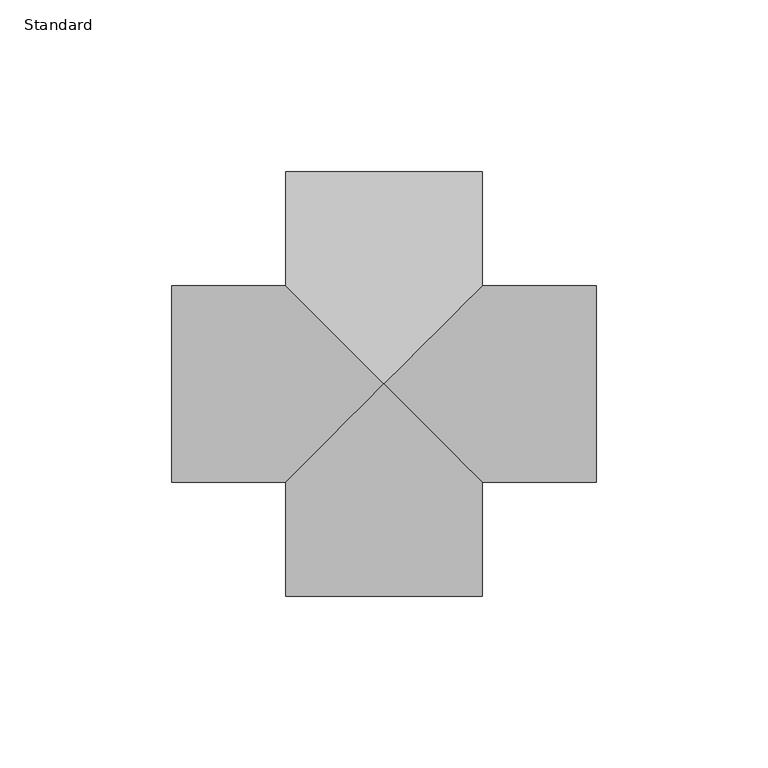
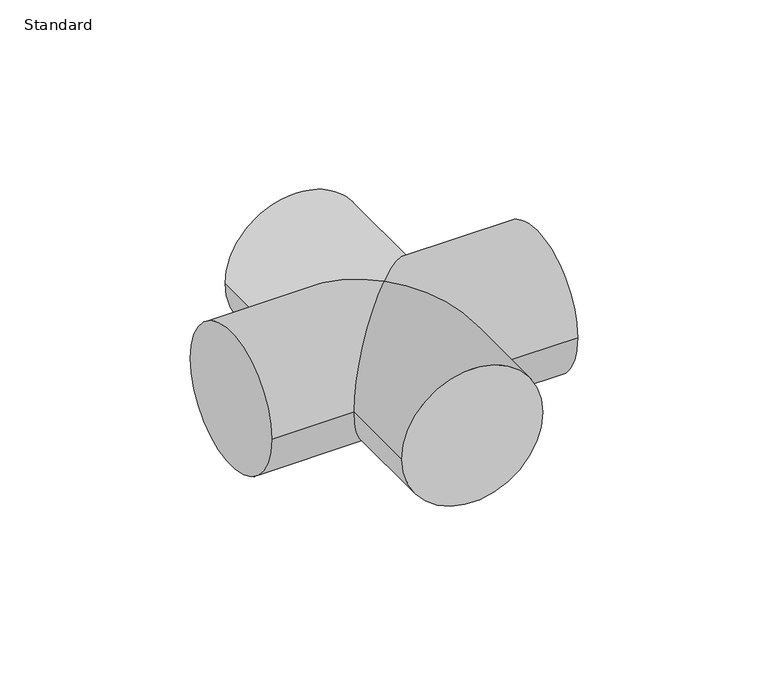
"""IFC4 building model written with IfcOpenShell, lengths in millimetres: pipe fitting geometry, M_Cross - CPVC - Sch 40 : Standard."""

from ifc_helpers import new_model, si_unit, frame, origin, place, context, project, spatial, circle_curve, ellipse_curve, source, transform, mapped, element, save
from ifc_brep_helpers import plane_surface, cylinder_surface, advanced_brep


def standard_f060d3e4(model_context):
    return source(origin(), model_context, "Body", "AdvancedBrep", [
        advanced_brep(
        [(-28.575, -61.9252, 0.0), (28.575, -61.9252, 0.0), (28.575, -28.575, 0.0), (0.0, 0.0, 28.575), (-28.575, -28.575, 0.0), (0.0, 0.0, -28.575), (28.575, 61.9252, 0.0), (-28.575, 61.9252, 0.0), (-28.575, 28.575, 0.0), (28.575, 28.575, 0.0), (-61.9252, -28.575, 0.0), (-61.9252, 28.575, 0.0), (61.9252, -28.575, 0.0), (61.9252, 28.575, 0.0)],
        [
            (0, 1, circle_curve(frame((0.0, -61.9252, 0.0), z_axis=(0.0, -1.0, 0.0), x_axis=(1.0, 0.0, 0.0)), 28.575)),
            (1, 0, circle_curve(frame((0.0, -61.9252, 0.0), z_axis=(0.0, -1.0, 0.0), x_axis=(1.0, 0.0, 0.0)), 28.575)),
            (1, 2),
            (2, 3, ellipse_curve(frame((0.0, 0.0, 0.0), z_axis=(-0.707106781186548, -0.7071067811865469, 0.0), x_axis=(-0.7071067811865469, 0.7071067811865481, 0.0)), 40.4111525, 28.575)),
            (3, 4, ellipse_curve(frame((0.0, 0.0, 0.0), z_axis=(0.7071067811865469, -0.7071067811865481, 0.0), x_axis=(0.707106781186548, 0.7071067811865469, 0.0)), 40.4111525, 28.575)),
            (4, 0),
            (4, 5, ellipse_curve(frame((0.0, 0.0, 0.0), z_axis=(0.7071067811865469, -0.7071067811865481, 0.0), x_axis=(0.707106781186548, 0.7071067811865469, 0.0)), 40.4111525, 28.575)),
            (5, 2, ellipse_curve(frame((0.0, 0.0, 0.0), z_axis=(-0.707106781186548, -0.7071067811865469, 0.0), x_axis=(-0.7071067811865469, 0.7071067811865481, 0.0)), 40.4111525, 28.575)),
            (6, 7, circle_curve(frame((0.0, 61.9252, 0.0), z_axis=(0.0, 1.0, 0.0), x_axis=(-1.0, 0.0, 0.0)), 28.575)),
            (7, 6, circle_curve(frame((0.0, 61.9252, 0.0), z_axis=(0.0, 1.0, 0.0), x_axis=(-1.0, 0.0, 0.0)), 28.575)),
            (7, 8),
            (8, 3, ellipse_curve(frame((0.0, 0.0, 0.0), z_axis=(0.7071067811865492, 0.7071067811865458, 0.0), x_axis=(0.7071067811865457, -0.7071067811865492, 0.0)), 40.4111525, 28.575)),
            (3, 9, ellipse_curve(frame((0.0, 0.0, 0.0), z_axis=(-0.7071067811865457, 0.7071067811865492, 0.0), x_axis=(-0.7071067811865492, -0.7071067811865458, 0.0)), 40.4111525, 28.575)),
            (9, 6),
            (9, 5, ellipse_curve(frame((0.0, 0.0, 0.0), z_axis=(-0.7071067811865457, 0.7071067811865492, 0.0), x_axis=(-0.7071067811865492, -0.7071067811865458, 0.0)), 40.4111525, 28.575)),
            (5, 8, ellipse_curve(frame((0.0, 0.0, 0.0), z_axis=(0.7071067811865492, 0.7071067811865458, 0.0), x_axis=(0.7071067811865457, -0.7071067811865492, 0.0)), 40.4111525, 28.575)),
            (10, 11, circle_curve(frame((-61.9252, 0.0, 0.0), z_axis=(-1.0, 0.0, 0.0), x_axis=(0.0, 1.0, 0.0)), 28.575)),
            (11, 10, circle_curve(frame((-61.9252, 0.0, 0.0), z_axis=(-1.0, 0.0, 0.0), x_axis=(0.0, 1.0, 0.0)), 28.575)),
            (12, 13, circle_curve(frame((61.9252, 0.0, 0.0), z_axis=(1.0, 0.0, 0.0), x_axis=(0.0, 1.0, 0.0)), 28.575)),
            (13, 12, circle_curve(frame((61.9252, 0.0, 0.0), z_axis=(1.0, 0.0, 0.0), x_axis=(0.0, 1.0, 0.0)), 28.575)),
            (10, 4),
            (8, 11),
            (13, 9),
            (2, 12),
        ],
        [
            plane_surface(frame((0.0, -61.9252, 0.0), z_axis=(0.0, -1.0, 0.0), x_axis=(0.0, 0.0, 1.0))),
            cylinder_surface(frame((0.0, 0.0, 0.0), z_axis=(0.0, 1.0, 0.0), x_axis=(1.0, 0.0, 0.0)), 28.575),
            plane_surface(frame((0.0, 61.9252, 0.0), z_axis=(0.0, 1.0, 0.0), x_axis=(0.0, 0.0, 1.0))),
            cylinder_surface(frame((0.0, 0.0, 0.0), z_axis=(0.0, -1.0, 0.0), x_axis=(-1.0, 0.0, 0.0)), 28.575),
            plane_surface(frame((-61.9252, 0.0, 0.0), z_axis=(-1.0, 0.0, 0.0), x_axis=(0.0, 0.0, 1.0))),
            plane_surface(frame((61.9252, 0.0, 0.0), z_axis=(1.0, 0.0, 0.0), x_axis=(0.0, 0.0, 1.0))),
            cylinder_surface(frame((-61.9252, 0.0, 0.0), z_axis=(-1.0, 0.0, 0.0), x_axis=(0.0, 1.0, 0.0)), 28.575),
        ],
        [
            (0, [[1, 2]]),
            (1, [[-2, 3, 4, 5, 6]]),
            (1, [[-1, -6, 7, 8, -3]]),
            (2, [[9, 10]]),
            (3, [[-10, 11, 12, 13, 14]]),
            (3, [[-9, -14, 15, 16, -11]]),
            (4, [[17, 18]]),
            (5, [[19, 20]]),
            (6, [[-17, 21, -5, -12, 22]]),
            (6, [[-20, 23, -13, -4, 24]]),
            (6, [[-18, -22, -16, -7, -21]]),
            (6, [[-19, -24, -8, -15, -23]]),
        ],
    ),
    ])


if __name__ == "__main__":
    model = new_model("IFC4")
    model_context = context("Model", 3, world=origin())
    ifc_project = project(units=[si_unit("LENGTHUNIT", "METRE", prefix="MILLI")], contexts=[model_context])
    site = spatial("IfcSite", under=ifc_project)
    building = spatial("IfcBuilding", under=site)
    placement = place(None, origin())
    standard_shape = standard_f060d3e4(model_context)
    element("IfcPipeFitting", 1, ObjectType="M_Cross - CPVC - Sch 40 : Standard", at=placement, inside=building, context=model_context, shape_type="MappedRepresentation", body=[
        mapped(standard_shape, transform((0.0, 0.0, 0.0), x_axis=(1.0, 0.0, 0.0), y_axis=(0.0, 1.0, 0.0), z_axis=(0.0, 0.0, 1.0))),
    ])
    save(model, "model.ifc")
